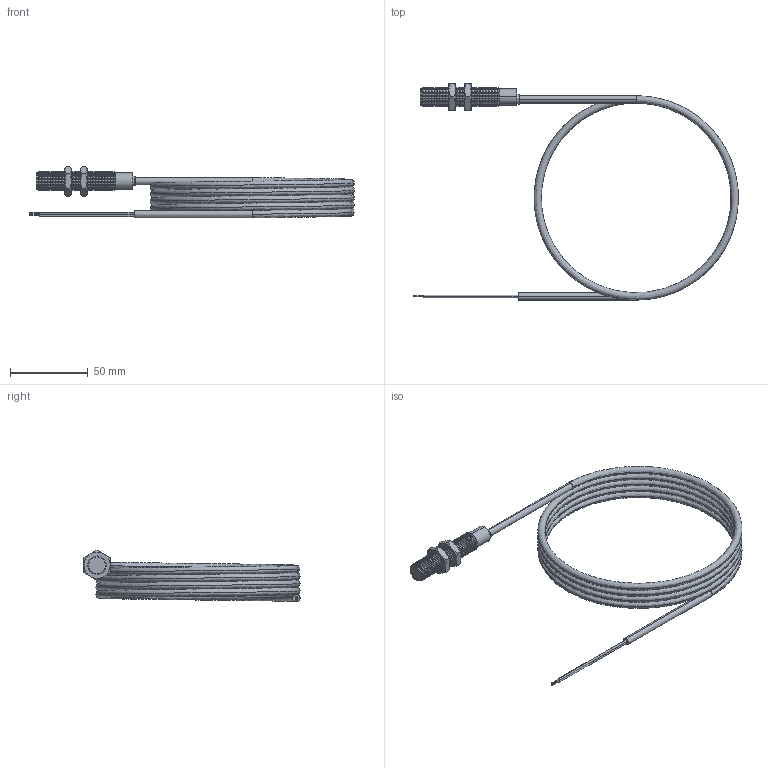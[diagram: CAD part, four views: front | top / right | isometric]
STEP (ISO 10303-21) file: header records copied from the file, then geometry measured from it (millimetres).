
FILE_DESCRIPTION (( 'STEP AP203' ), '1' );
FILE_NAME ('90-XXXX-010.STEP', '2015-10-28T13:10:56', ( 'Sam' ), ( 'Spade' ), 'SwSTEP 2.0', 'SolidWorks 2002296', '' );
FILE_SCHEMA (( 'CONFIG_CONTROL_DESIGN' ));
Length unit declared in the file: inch
Products named in the file (13): 90-XXXX-010; Imported96; Imported95; Imported94; Imported93; Imported97; Imported99; Imported98; Imported92; Imported91; Imported90; Imported88; Imported89
Assembly tree (12 placements, depth 2):
  90-XXXX-010
    Imported95
    Imported93
    Imported91
    Imported97
    Imported92
    Imported99
    Imported90
    Imported88
    Imported98
    Imported89
    Imported94
    Imported96
Bounding box: 209.36 x 139.31 x 33.35 mm (x, y, z)
Volume: 41872.3 mm3; surface area: 35052.5 mm2
Topology: 12 solids, 12 shells, 443 faces, 1047 edges, 631 vertices
Faces by surface type: cone 266, cylinder 126, plane 39, bspline 12
Entity records: 15808 total; most frequent: CARTESIAN_POINT 3869, DIRECTION 2494, ORIENTED_EDGE 2094, AXIS2_PLACEMENT_3D 1057, EDGE_CURVE 1047, VERTEX_POINT 631, CIRCLE 611, EDGE_LOOP 450
